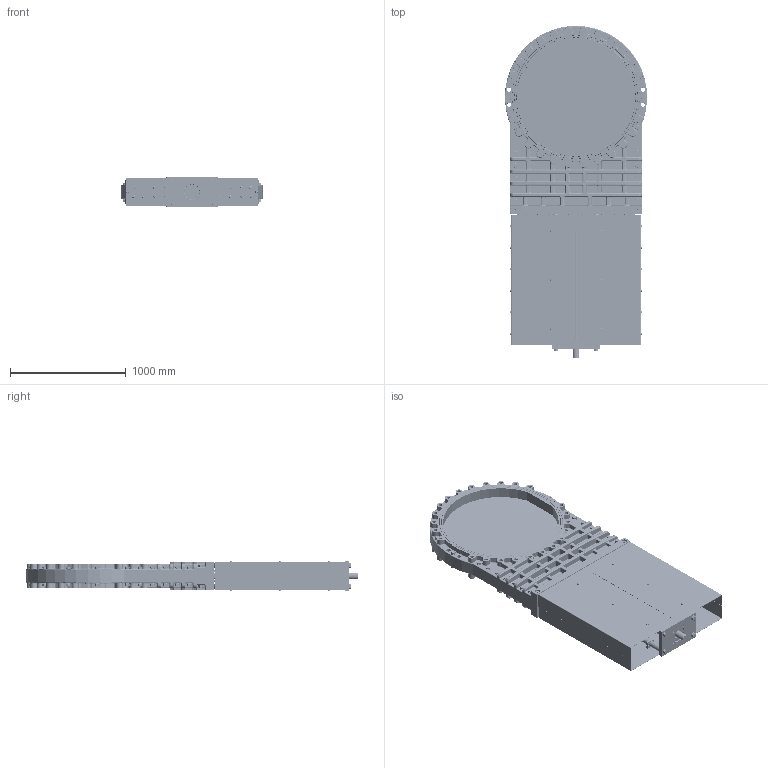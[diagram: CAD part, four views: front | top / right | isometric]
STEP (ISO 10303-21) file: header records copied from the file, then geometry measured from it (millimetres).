
FILE_DESCRIPTION(/* description */ (''),/* implementation_level */ '2;1');
FILE_NAME(/* name */ '明杆刀阀带上法兰 DN1000简图.stp',/* time_stamp */ '2025-12-20T19:02:50+08:00',/* author */ (''),/* organization */ (''),/* preprocessor_version */ 'ST-DEVELOPER v15',/* originating_system */ 'SIEMENS PLM Software NX 10.0',/* authorisation */ '');
FILE_SCHEMA (('AP203_CONFIGURATION_CONTROLLED_3D_DESIGN_OF_MECHANICAL_PARTS_AND_ASSEMBLIES_MIM_LF { 1 0 10303 403 2 1 2}'));
Products named in the file (1): 36A882E2gl93
Bounding box: 1229.03 x 2868.55 x 266.8 mm (x, y, z)
Volume: 227179162.9 mm3; surface area: 15856687.7 mm2
Topology: 1 solids, 68 shells, 5330 faces, 12355 edges, 7564 vertices
Faces by surface type: plane 1970, cylinder 1799, torus 636, cone 553, bspline 368, sphere 4
Full cylindrical faces by diameter (mm): 7.323 x12, 8 x24, 8.4 x12, 9 x12, 9.188 x12, 10 x24, 10.5 x12, 11.4 x12, 14 x24, 15.4 x12, 16 x60, 17 x24, 18 x24, 20 x16, 22 x6, 22.579 x26, 24 x50, 25.5 x48, 26 x36, 30 x72, 32 x4, 33 x26, 35.556 x2, 37 x4, 45 x48, 46 x2, 50 x4, 51 x1, 52 x4, 60 x1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
Entity records: 178835 total; most frequent: CARTESIAN_POINT 49467, DIRECTION 24142, ORIENTED_EDGE 21394, EDGE_CURVE 10697, AXIS2_PLACEMENT_3D 10173, EDGE_LOOP 7150, VERTEX_POINT 7103, ADVANCED_FACE 5330
